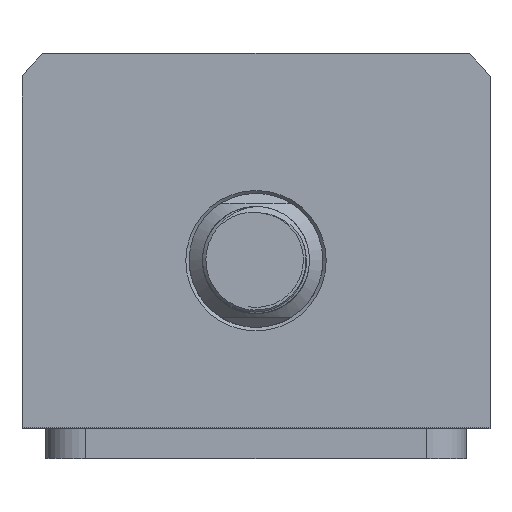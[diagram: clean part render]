
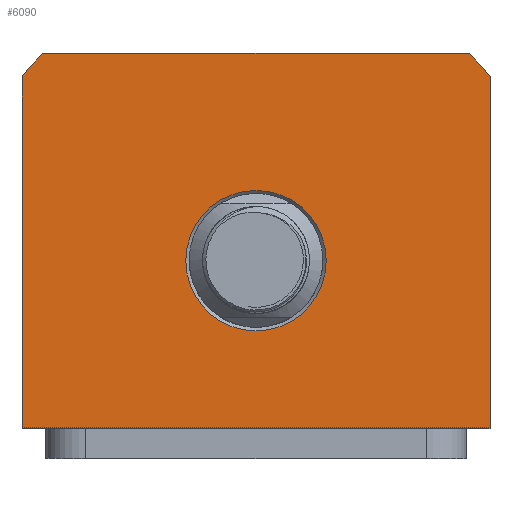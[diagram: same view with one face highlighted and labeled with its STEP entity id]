
A CAD part, top view. The second image highlights one B-rep face of the part: STEP entity #6090.
In plain terms, the highlighted planar face has unit normal (0, 0, 1).
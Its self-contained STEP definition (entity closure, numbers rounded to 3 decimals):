
#2749=PLANE('',#13071);
#3272=LINE('',#22214,#4222);
#3297=LINE('',#22879,#4247);
#3311=LINE('',#22925,#4261);
#3320=LINE('',#22949,#4270);
#4222=VECTOR('',#13659,1.);
#4247=VECTOR('',#13784,1.);
#4261=VECTOR('',#13830,1.);
#4270=VECTOR('',#13853,1.);
#6090=ADVANCED_FACE('',(#6663,#6664),#2749,.T.);
#6663=FACE_BOUND('',#6882,.T.);
#6664=FACE_BOUND('',#6883,.T.);
#6882=EDGE_LOOP('',(#8026));
#6883=EDGE_LOOP('',(#8027,#8028,#8029,#8030,#8031,#8032));
#8026=ORIENTED_EDGE('',*,*,#11582,.T.);
#8027=ORIENTED_EDGE('',*,*,#11676,.T.);
#8028=ORIENTED_EDGE('',*,*,#11581,.T.);
#8029=ORIENTED_EDGE('',*,*,#11686,.T.);
#8030=ORIENTED_EDGE('',*,*,#11699,.T.);
#8031=ORIENTED_EDGE('',*,*,#11711,.T.);
#8032=ORIENTED_EDGE('',*,*,#11713,.T.);
#10484=VERTEX_POINT('',#22184);
#10499=VERTEX_POINT('',#22213);
#10500=VERTEX_POINT('',#22217);
#10584=VERTEX_POINT('',#22875);
#10593=VERTEX_POINT('',#22899);
#10601=VERTEX_POINT('',#22924);
#10609=VERTEX_POINT('',#22945);
#11581=EDGE_CURVE('',#10484,#10499,#3272,.T.);
#11582=EDGE_CURVE('',#10500,#10500,#12826,.T.);
#11676=EDGE_CURVE('',#10584,#10484,#3297,.T.);
#11686=EDGE_CURVE('',#10499,#10593,#12860,.T.);
#11699=EDGE_CURVE('',#10593,#10601,#3311,.T.);
#11711=EDGE_CURVE('',#10601,#10609,#12868,.T.);
#11713=EDGE_CURVE('',#10609,#10584,#3320,.T.);
#12826=CIRCLE('',#12998,10.5);
#12860=CIRCLE('',#13055,44.5);
#12868=CIRCLE('',#13068,44.5);
#12998=AXIS2_PLACEMENT_3D('',#22216,#13662,#13663);
#13055=AXIS2_PLACEMENT_3D('',#22900,#13805,#13806);
#13068=AXIS2_PLACEMENT_3D('',#22946,#13848,#13849);
#13071=AXIS2_PLACEMENT_3D('',#22961,#13862,#13863);
#13659=DIRECTION('',(0.,1.,0.));
#13662=DIRECTION('',(0.,0.,-1.));
#13663=DIRECTION('',(1.,0.,0.));
#13784=DIRECTION('',(1.,0.,0.));
#13805=DIRECTION('',(0.,0.,1.));
#13806=DIRECTION('',(1.,0.,0.));
#13830=DIRECTION('',(-1.,0.,0.));
#13848=DIRECTION('',(0.,0.,1.));
#13849=DIRECTION('',(1.,0.,0.));
#13853=DIRECTION('',(0.,-1.,0.));
#13862=DIRECTION('',(0.,0.,1.));
#13863=DIRECTION('',(-1.,0.,0.));
#22184=CARTESIAN_POINT('',(35.,-25.,47.));
#22213=CARTESIAN_POINT('',(35.,27.482,47.));
#22214=CARTESIAN_POINT('',(35.,27.482,47.));
#22216=CARTESIAN_POINT('',(0.,0.,47.));
#22217=CARTESIAN_POINT('',(10.5,0.,47.));
#22875=CARTESIAN_POINT('',(-35.,-25.,47.));
#22879=CARTESIAN_POINT('',(35.,-25.,47.));
#22899=CARTESIAN_POINT('',(31.926,31.,47.));
#22900=CARTESIAN_POINT('',(0.,0.,47.));
#22924=CARTESIAN_POINT('',(-31.926,31.,47.));
#22925=CARTESIAN_POINT('',(-31.926,31.,47.));
#22945=CARTESIAN_POINT('',(-35.,27.482,47.));
#22946=CARTESIAN_POINT('',(0.,0.,47.));
#22949=CARTESIAN_POINT('',(-35.,-25.,47.));
#22961=CARTESIAN_POINT('',(0.,0.,47.));
